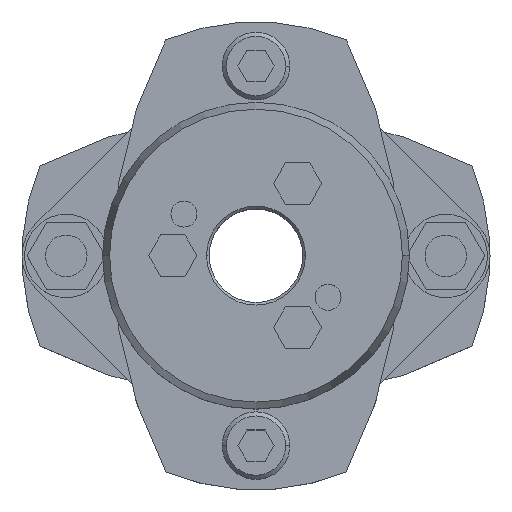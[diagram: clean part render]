
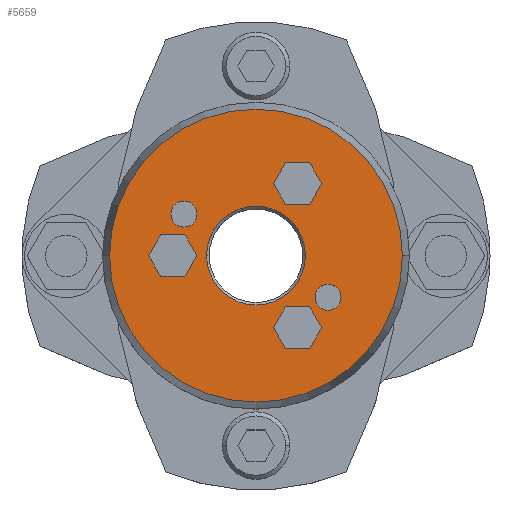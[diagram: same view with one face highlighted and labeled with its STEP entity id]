
A CAD part, top view. The second image highlights one B-rep face of the part: STEP entity #5659.
In plain terms, the highlighted planar face has unit normal (0, 0, 1).
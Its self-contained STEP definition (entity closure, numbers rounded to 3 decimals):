
#857=CARTESIAN_POINT('',(-9.5,0.,39.25));
#858=VERTEX_POINT('',#857);
#874=CARTESIAN_POINT('',(9.5,0.,39.25));
#875=VERTEX_POINT('',#874);
#882=CARTESIAN_POINT('',(0.,0.,39.25));
#883=DIRECTION('',(0.0,0.0,1.0));
#884=DIRECTION('',(-1.0,0.0,0.0));
#885=AXIS2_PLACEMENT_3D('',#882,#883,#884);
#886=CIRCLE('',#885,9.5);
#887=EDGE_CURVE('',#875,#858,#886,.T.);
#1045=CARTESIAN_POINT('',(28.16,0.,39.25));
#1046=VERTEX_POINT('',#1045);
#1053=CARTESIAN_POINT('',(-28.16,0.,39.25));
#1054=VERTEX_POINT('',#1053);
#1055=CARTESIAN_POINT('',(0.,0.,39.25));
#1056=DIRECTION('',(0.0,0.0,-1.0));
#1057=DIRECTION('',(1.0,0.0,0.0));
#1058=AXIS2_PLACEMENT_3D('',#1055,#1056,#1057);
#1059=CIRCLE('',#1058,28.16);
#1060=EDGE_CURVE('',#1046,#1054,#1059,.T.);
#1303=CARTESIAN_POINT('',(-16.356,8.,39.25));
#1304=VERTEX_POINT('',#1303);
#1320=CARTESIAN_POINT('',(-11.356,8.,39.25));
#1321=VERTEX_POINT('',#1320);
#1328=CARTESIAN_POINT('',(-13.856,8.,39.25));
#1329=DIRECTION('',(0.0,0.0,-1.0));
#1330=DIRECTION('',(-1.0,0.0,0.0));
#1331=AXIS2_PLACEMENT_3D('',#1328,#1329,#1330);
#1332=CIRCLE('',#1331,2.5);
#1333=EDGE_CURVE('',#1304,#1321,#1332,.T.);
#1345=CARTESIAN_POINT('',(11.356,-8.,39.25));
#1346=VERTEX_POINT('',#1345);
#1362=CARTESIAN_POINT('',(16.356,-8.,39.25));
#1363=VERTEX_POINT('',#1362);
#1370=CARTESIAN_POINT('',(13.856,-8.,39.25));
#1371=DIRECTION('',(0.0,0.0,-1.0));
#1372=DIRECTION('',(-1.0,0.0,0.0));
#1373=AXIS2_PLACEMENT_3D('',#1370,#1371,#1372);
#1374=CIRCLE('',#1373,2.5);
#1375=EDGE_CURVE('',#1346,#1363,#1374,.T.);
#4175=CARTESIAN_POINT('',(3.381,13.856,39.25));
#4176=VERTEX_POINT('',#4175);
#4183=CARTESIAN_POINT('',(5.691,9.856,39.25));
#4184=VERTEX_POINT('',#4183);
#4185=CARTESIAN_POINT('',(5.691,9.856,39.25));
#4186=DIRECTION('',(-0.5,0.866,0.0));
#4187=VECTOR('',#4186,4.619);
#4188=LINE('',#4185,#4187);
#4189=EDGE_CURVE('',#4184,#4176,#4188,.T.);
#4213=CARTESIAN_POINT('',(5.691,17.856,39.25));
#4214=VERTEX_POINT('',#4213);
#4221=CARTESIAN_POINT('',(3.381,13.856,39.25));
#4222=DIRECTION('',(0.5,0.866,0.0));
#4223=VECTOR('',#4222,4.619);
#4224=LINE('',#4221,#4223);
#4225=EDGE_CURVE('',#4176,#4214,#4224,.T.);
#4244=CARTESIAN_POINT('',(10.309,17.856,39.25));
#4245=VERTEX_POINT('',#4244);
#4252=CARTESIAN_POINT('',(5.691,17.856,39.25));
#4253=DIRECTION('',(1.0,0.0,0.0));
#4254=VECTOR('',#4253,4.619);
#4255=LINE('',#4252,#4254);
#4256=EDGE_CURVE('',#4214,#4245,#4255,.T.);
#4275=CARTESIAN_POINT('',(12.619,13.856,39.25));
#4276=VERTEX_POINT('',#4275);
#4283=CARTESIAN_POINT('',(10.309,17.856,39.25));
#4284=DIRECTION('',(0.5,-0.866,0.0));
#4285=VECTOR('',#4284,4.619);
#4286=LINE('',#4283,#4285);
#4287=EDGE_CURVE('',#4245,#4276,#4286,.T.);
#4306=CARTESIAN_POINT('',(10.309,9.856,39.25));
#4307=VERTEX_POINT('',#4306);
#4314=CARTESIAN_POINT('',(12.619,13.856,39.25));
#4315=DIRECTION('',(-0.5,-0.866,0.0));
#4316=VECTOR('',#4315,4.619);
#4317=LINE('',#4314,#4316);
#4318=EDGE_CURVE('',#4276,#4307,#4317,.T.);
#4336=CARTESIAN_POINT('',(10.309,9.856,39.25));
#4337=DIRECTION('',(-1.0,0.0,0.0));
#4338=VECTOR('',#4337,4.619);
#4339=LINE('',#4336,#4338);
#4340=EDGE_CURVE('',#4307,#4184,#4339,.T.);
#4375=CARTESIAN_POINT('',(-20.619,0.,39.25));
#4376=VERTEX_POINT('',#4375);
#4383=CARTESIAN_POINT('',(-18.309,-4.,39.25));
#4384=VERTEX_POINT('',#4383);
#4385=CARTESIAN_POINT('',(-18.309,-4.,39.25));
#4386=DIRECTION('',(-0.5,0.866,0.0));
#4387=VECTOR('',#4386,4.619);
#4388=LINE('',#4385,#4387);
#4389=EDGE_CURVE('',#4384,#4376,#4388,.T.);
#4413=CARTESIAN_POINT('',(-18.309,4.,39.25));
#4414=VERTEX_POINT('',#4413);
#4421=CARTESIAN_POINT('',(-20.619,0.,39.25));
#4422=DIRECTION('',(0.5,0.866,0.0));
#4423=VECTOR('',#4422,4.619);
#4424=LINE('',#4421,#4423);
#4425=EDGE_CURVE('',#4376,#4414,#4424,.T.);
#4444=CARTESIAN_POINT('',(-13.691,4.,39.25));
#4445=VERTEX_POINT('',#4444);
#4452=CARTESIAN_POINT('',(-18.309,4.,39.25));
#4453=DIRECTION('',(1.0,0.0,0.0));
#4454=VECTOR('',#4453,4.619);
#4455=LINE('',#4452,#4454);
#4456=EDGE_CURVE('',#4414,#4445,#4455,.T.);
#4475=CARTESIAN_POINT('',(-11.381,0.,39.25));
#4476=VERTEX_POINT('',#4475);
#4483=CARTESIAN_POINT('',(-13.691,4.,39.25));
#4484=DIRECTION('',(0.5,-0.866,0.0));
#4485=VECTOR('',#4484,4.619);
#4486=LINE('',#4483,#4485);
#4487=EDGE_CURVE('',#4445,#4476,#4486,.T.);
#4506=CARTESIAN_POINT('',(-13.691,-4.,39.25));
#4507=VERTEX_POINT('',#4506);
#4514=CARTESIAN_POINT('',(-11.381,0.,39.25));
#4515=DIRECTION('',(-0.5,-0.866,0.0));
#4516=VECTOR('',#4515,4.619);
#4517=LINE('',#4514,#4516);
#4518=EDGE_CURVE('',#4476,#4507,#4517,.T.);
#4536=CARTESIAN_POINT('',(-13.691,-4.,39.25));
#4537=DIRECTION('',(-1.0,0.0,0.0));
#4538=VECTOR('',#4537,4.619);
#4539=LINE('',#4536,#4538);
#4540=EDGE_CURVE('',#4507,#4384,#4539,.T.);
#4575=CARTESIAN_POINT('',(3.381,-13.856,39.25));
#4576=VERTEX_POINT('',#4575);
#4583=CARTESIAN_POINT('',(5.691,-17.856,39.25));
#4584=VERTEX_POINT('',#4583);
#4585=CARTESIAN_POINT('',(5.691,-17.856,39.25));
#4586=DIRECTION('',(-0.5,0.866,0.0));
#4587=VECTOR('',#4586,4.619);
#4588=LINE('',#4585,#4587);
#4589=EDGE_CURVE('',#4584,#4576,#4588,.T.);
#4613=CARTESIAN_POINT('',(5.691,-9.856,39.25));
#4614=VERTEX_POINT('',#4613);
#4621=CARTESIAN_POINT('',(3.381,-13.856,39.25));
#4622=DIRECTION('',(0.5,0.866,0.0));
#4623=VECTOR('',#4622,4.619);
#4624=LINE('',#4621,#4623);
#4625=EDGE_CURVE('',#4576,#4614,#4624,.T.);
#4644=CARTESIAN_POINT('',(10.309,-9.856,39.25));
#4645=VERTEX_POINT('',#4644);
#4652=CARTESIAN_POINT('',(5.691,-9.856,39.25));
#4653=DIRECTION('',(1.0,0.0,0.0));
#4654=VECTOR('',#4653,4.619);
#4655=LINE('',#4652,#4654);
#4656=EDGE_CURVE('',#4614,#4645,#4655,.T.);
#4675=CARTESIAN_POINT('',(12.619,-13.856,39.25));
#4676=VERTEX_POINT('',#4675);
#4683=CARTESIAN_POINT('',(10.309,-9.856,39.25));
#4684=DIRECTION('',(0.5,-0.866,0.0));
#4685=VECTOR('',#4684,4.619);
#4686=LINE('',#4683,#4685);
#4687=EDGE_CURVE('',#4645,#4676,#4686,.T.);
#4706=CARTESIAN_POINT('',(10.309,-17.856,39.25));
#4707=VERTEX_POINT('',#4706);
#4714=CARTESIAN_POINT('',(12.619,-13.856,39.25));
#4715=DIRECTION('',(-0.5,-0.866,0.0));
#4716=VECTOR('',#4715,4.619);
#4717=LINE('',#4714,#4716);
#4718=EDGE_CURVE('',#4676,#4707,#4717,.T.);
#4736=CARTESIAN_POINT('',(10.309,-17.856,39.25));
#4737=DIRECTION('',(-1.0,0.0,0.0));
#4738=VECTOR('',#4737,4.619);
#4739=LINE('',#4736,#4738);
#4740=EDGE_CURVE('',#4707,#4584,#4739,.T.);
#4766=CARTESIAN_POINT('',(13.856,-8.,39.25));
#4767=DIRECTION('',(0.0,0.0,-1.0));
#4768=DIRECTION('',(-1.0,0.0,0.0));
#4769=AXIS2_PLACEMENT_3D('',#4766,#4767,#4768);
#4770=CIRCLE('',#4769,2.5);
#4771=EDGE_CURVE('',#1363,#1346,#4770,.T.);
#4800=CARTESIAN_POINT('',(-13.856,8.,39.25));
#4801=DIRECTION('',(0.0,0.0,-1.0));
#4802=DIRECTION('',(-1.0,0.0,0.0));
#4803=AXIS2_PLACEMENT_3D('',#4800,#4801,#4802);
#4804=CIRCLE('',#4803,2.5);
#4805=EDGE_CURVE('',#1321,#1304,#4804,.T.);
#5598=CARTESIAN_POINT('',(0.,0.,39.25));
#5599=DIRECTION('',(0.0,0.0,-1.0));
#5600=DIRECTION('',(1.0,0.0,0.0));
#5601=AXIS2_PLACEMENT_3D('',#5598,#5599,#5600);
#5602=CIRCLE('',#5601,28.16);
#5603=EDGE_CURVE('',#1054,#1046,#5602,.T.);
#5608=CARTESIAN_POINT('',(-2.682,0.,39.25));
#5609=DIRECTION('',(0.0,0.0,1.0));
#5610=DIRECTION('',(-1.0,0.0,0.0));
#5611=AXIS2_PLACEMENT_3D('',#5608,#5609,#5610);
#5612=PLANE('',#5611);
#5613=ORIENTED_EDGE('',*,*,#5603,.F.);
#5614=ORIENTED_EDGE('',*,*,#1060,.F.);
#5615=EDGE_LOOP('',(#5613,#5614));
#5616=FACE_OUTER_BOUND('',#5615,.T.);
#5617=ORIENTED_EDGE('',*,*,#4189,.T.);
#5618=ORIENTED_EDGE('',*,*,#4225,.T.);
#5619=ORIENTED_EDGE('',*,*,#4256,.T.);
#5620=ORIENTED_EDGE('',*,*,#4287,.T.);
#5621=ORIENTED_EDGE('',*,*,#4318,.T.);
#5622=ORIENTED_EDGE('',*,*,#4340,.T.);
#5623=EDGE_LOOP('',(#5617,#5618,#5619,#5620,#5621,#5622));
#5624=FACE_BOUND('',#5623,.T.);
#5625=ORIENTED_EDGE('',*,*,#4389,.T.);
#5626=ORIENTED_EDGE('',*,*,#4425,.T.);
#5627=ORIENTED_EDGE('',*,*,#4456,.T.);
#5628=ORIENTED_EDGE('',*,*,#4487,.T.);
#5629=ORIENTED_EDGE('',*,*,#4518,.T.);
#5630=ORIENTED_EDGE('',*,*,#4540,.T.);
#5631=EDGE_LOOP('',(#5625,#5626,#5627,#5628,#5629,#5630));
#5632=FACE_BOUND('',#5631,.T.);
#5633=ORIENTED_EDGE('',*,*,#4589,.T.);
#5634=ORIENTED_EDGE('',*,*,#4625,.T.);
#5635=ORIENTED_EDGE('',*,*,#4656,.T.);
#5636=ORIENTED_EDGE('',*,*,#4687,.T.);
#5637=ORIENTED_EDGE('',*,*,#4718,.T.);
#5638=ORIENTED_EDGE('',*,*,#4740,.T.);
#5639=EDGE_LOOP('',(#5633,#5634,#5635,#5636,#5637,#5638));
#5640=FACE_BOUND('',#5639,.T.);
#5641=ORIENTED_EDGE('',*,*,#1375,.T.);
#5642=ORIENTED_EDGE('',*,*,#4771,.T.);
#5643=EDGE_LOOP('',(#5641,#5642));
#5644=FACE_BOUND('',#5643,.T.);
#5645=ORIENTED_EDGE('',*,*,#1333,.T.);
#5646=ORIENTED_EDGE('',*,*,#4805,.T.);
#5647=EDGE_LOOP('',(#5645,#5646));
#5648=FACE_BOUND('',#5647,.T.);
#5649=ORIENTED_EDGE('',*,*,#887,.F.);
#5650=CARTESIAN_POINT('',(0.,0.,39.25));
#5651=DIRECTION('',(0.0,0.0,1.0));
#5652=DIRECTION('',(-1.0,0.0,0.0));
#5653=AXIS2_PLACEMENT_3D('',#5650,#5651,#5652);
#5654=CIRCLE('',#5653,9.5);
#5655=EDGE_CURVE('',#858,#875,#5654,.T.);
#5656=ORIENTED_EDGE('',*,*,#5655,.F.);
#5657=EDGE_LOOP('',(#5649,#5656));
#5658=FACE_BOUND('',#5657,.T.);
#5659=ADVANCED_FACE('',(#5616,#5624,#5632,#5640,#5644,#5648,#5658),#5612,.T.);
